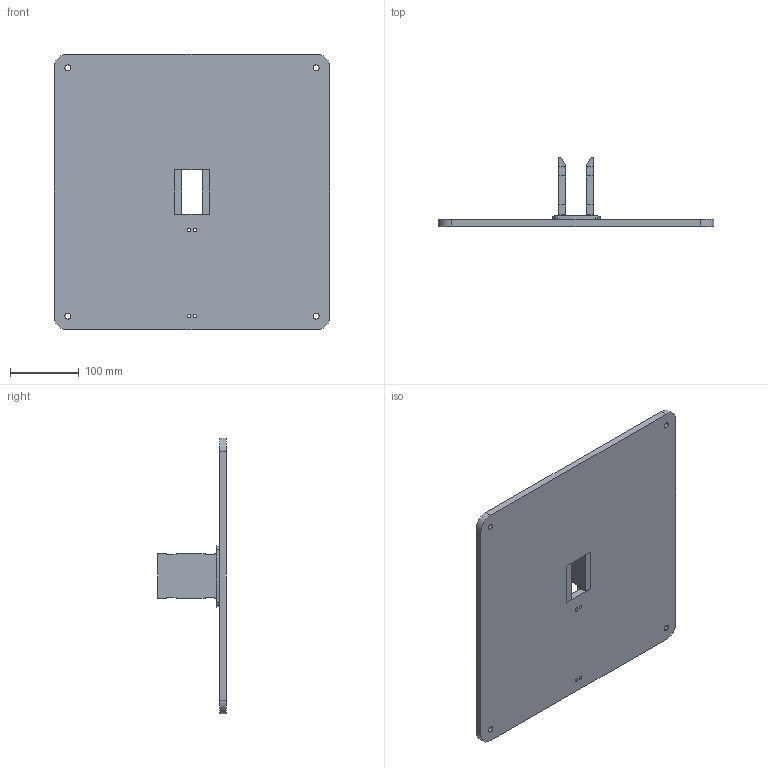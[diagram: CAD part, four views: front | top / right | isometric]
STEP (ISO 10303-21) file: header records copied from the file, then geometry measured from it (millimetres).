
FILE_DESCRIPTION (( 'STEP AP203' ), '1' );
FILE_NAME ('s2mpbs.STEP', '2012-09-19T14:57:31', ( 'User' ), ( 'Pentair Inc' ), 'SwSTEP 2.0', 'SolidWorks 2010', '' );
FILE_SCHEMA (( 'CONFIG_CONTROL_DESIGN' ));
Length unit declared in the file: inch
Products named in the file (3): s2mpbs; 87954012; 87948780
Assembly tree (2 placements, depth 2):
  s2mpbs
    87948780
    87954012
Bounding box: 400 x 100 x 400 mm (x, y, z)
Volume: 1693149.5 mm3; surface area: 370101.9 mm2
Topology: 4 solids, 4 shells, 132 faces, 362 edges, 238 vertices
Faces by surface type: plane 66, cylinder 54, cone 12
Entity records: 4555 total; most frequent: DIRECTION 758, CARTESIAN_POINT 737, ORIENTED_EDGE 724, EDGE_CURVE 362, AXIS2_PLACEMENT_3D 259, LINE 240, VECTOR 240, VERTEX_POINT 238
